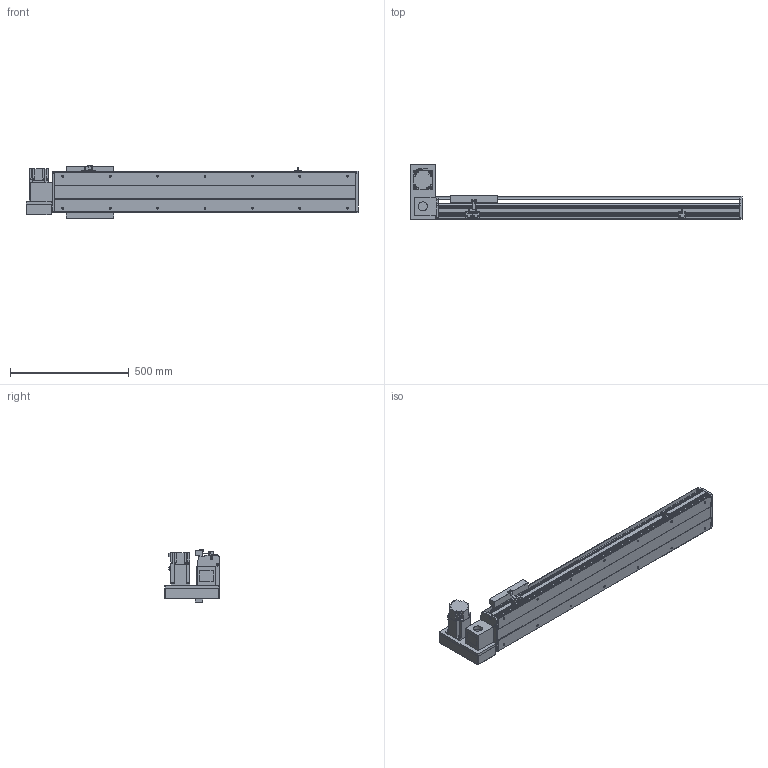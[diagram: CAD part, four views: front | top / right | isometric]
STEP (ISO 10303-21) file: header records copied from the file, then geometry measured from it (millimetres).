
FILE_DESCRIPTION(/* description */ ('STEP AP214'),/* implementation_level */ '2;1');
FILE_NAME(/* name */ 'PBS200-P40-S900-LU-T75-C1-N(0)',/* time_stamp */ '2022-06-11T08:59:32+02:00',/* author */ ('License CC BY-ND 4.0'),/* organization */ ('CADENAS'),/* preprocessor_version */ 'ST-DEVELOPER v18.102',/* originating_system */ 'PARTsolutions',/* authorisation */ ' ');
FILE_SCHEMA (('AUTOMOTIVE_DESIGN {1 0 10303 214 3 1 1}'));
Length unit declared in the file: millimetre
Products named in the file (7): PBS200-P40-S900-LU-T75-C1-N(0); PBS200_sensor; PBS200_plant; PBS200_sliser; T75-p1; PBS200T-LU_motors; PBS200-S900()_body
Assembly tree (8 placements, depth 2):
  PBS200-P40-S900-LU-T75-C1-N(0)
    PBS200_sensor  x3
    PBS200_plant
    PBS200_sliser
    T75-p1
    PBS200T-LU_motors
    PBS200-S900()_body
Bounding box: 1400 x 231 x 221 mm (x, y, z)
Volume: 10613222.5 mm3; surface area: 1720874.5 mm2
Topology: 8 solids, 8 shells, 914 faces, 2364 edges, 1542 vertices
Faces by surface type: plane 572, cylinder 296, cone 46
Full cylindrical faces by diameter (mm): 2.459 x6, 3.242 x4, 4.5 x6, 4.917 x4, 5 x6, 6 x7, 6.6 x8, 6.647 x18, 8 x6, 10 x4, 12 x8, 38 x2, 40 x1, 70 x1
Entity records: 24461 total; most frequent: DIRECTION 4303, CARTESIAN_POINT 4174, ORIENTED_EDGE 3970, EDGE_CURVE 1985, AXIS2_PLACEMENT_3D 1495, VERTEX_POINT 1366, LINE 1313, VECTOR 1313
